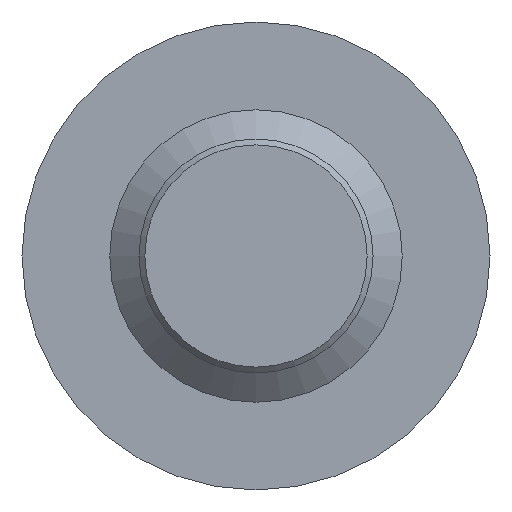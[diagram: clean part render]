
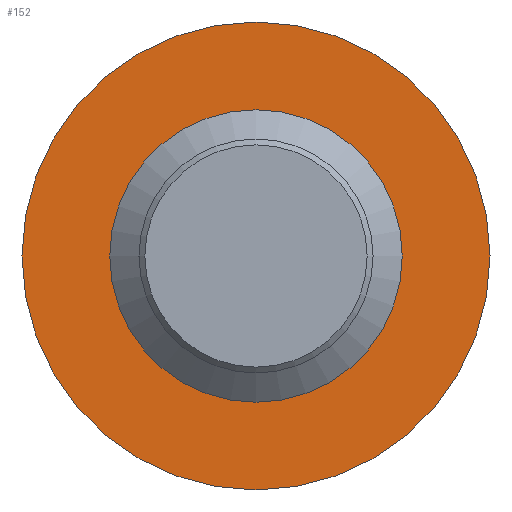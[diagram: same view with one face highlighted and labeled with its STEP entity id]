
A CAD part, front view. The second image highlights one B-rep face of the part: STEP entity #152.
In plain terms, the highlighted planar face has unit normal (0, -1, 0).
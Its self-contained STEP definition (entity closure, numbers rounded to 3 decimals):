
#15=FACE_BOUND('',#57,.T.);
#21=PLANE('',#195);
#45=FACE_OUTER_BOUND('',#56,.T.);
#56=EDGE_LOOP('',(#129));
#57=EDGE_LOOP('',(#130));
#67=CIRCLE('',#186,8.);
#72=CIRCLE('',#196,4.25);
#79=VERTEX_POINT('',#270);
#84=VERTEX_POINT('',#288);
#93=EDGE_CURVE('',#79,#79,#67,.T.);
#100=EDGE_CURVE('',#84,#84,#72,.T.);
#129=ORIENTED_EDGE('',*,*,#93,.F.);
#130=ORIENTED_EDGE('',*,*,#100,.F.);
#152=ADVANCED_FACE('',(#45,#15),#21,.F.);
#186=AXIS2_PLACEMENT_3D('',#272,#219,#220);
#195=AXIS2_PLACEMENT_3D('',#287,#239,#240);
#196=AXIS2_PLACEMENT_3D('',#289,#241,#242);
#219=DIRECTION('center_axis',(0.,1.,0.));
#220=DIRECTION('ref_axis',(1.,0.,0.));
#239=DIRECTION('center_axis',(0.,1.,0.));
#240=DIRECTION('ref_axis',(0.,0.,1.));
#241=DIRECTION('center_axis',(0.,-1.,0.));
#242=DIRECTION('ref_axis',(1.,0.,0.));
#270=CARTESIAN_POINT('',(-8.,26.6,0.));
#272=CARTESIAN_POINT('Origin',(0.,26.6,0.));
#287=CARTESIAN_POINT('Origin',(0.,26.6,0.));
#288=CARTESIAN_POINT('',(-4.25,26.6,0.));
#289=CARTESIAN_POINT('Origin',(0.,26.6,0.));
